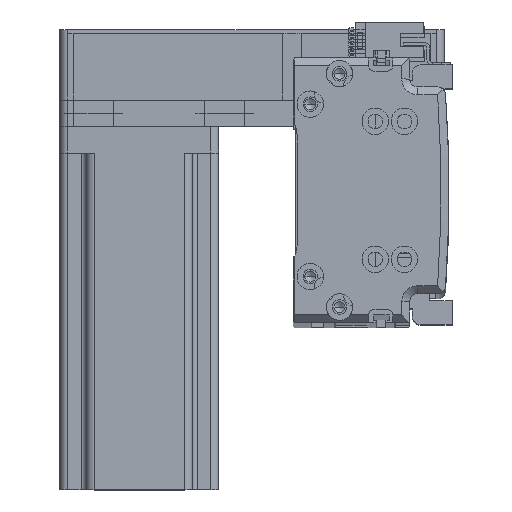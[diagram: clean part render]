
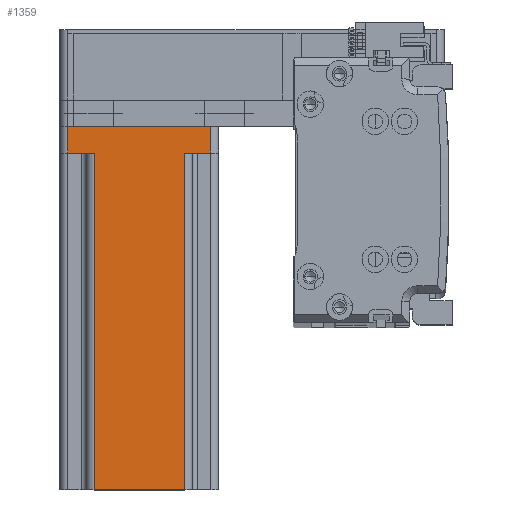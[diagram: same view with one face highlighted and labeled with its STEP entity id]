
A CAD part, top view. The second image highlights one B-rep face of the part: STEP entity #1359.
In plain terms, the highlighted planar face has unit normal (0, 0, 1) as drawn and (0, -1, 0) by its records, which use the part's own axes.
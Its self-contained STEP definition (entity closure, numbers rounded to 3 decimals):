
#155 = DIRECTION ( 'NONE',  ( -1., 0., 0. ) ) ;
#314 = DIRECTION ( 'NONE',  ( 0., 0., 1. ) ) ;
#983 = DIRECTION ( 'NONE',  ( 0., 0., -1. ) ) ;
#1106 = CARTESIAN_POINT ( 'NONE',  ( 27., -30., 0. ) ) ;
#1222 = EDGE_CURVE ( 'NONE', #5691, #38089, #54617, .T. ) ;
#1359 = ADVANCED_FACE ( 'NONE', ( #45406 ), #48182, .F. ) ;
#2135 = LINE ( 'NONE', #2583, #11985 ) ;
#2583 = CARTESIAN_POINT ( 'NONE',  ( 30., -30., 0. ) ) ;
#2760 = ORIENTED_EDGE ( 'NONE', *, *, #3086, .F. ) ;
#3086 = EDGE_CURVE ( 'NONE', #40821, #38089, #38540, .T. ) ;
#4400 = VERTEX_POINT ( 'NONE', #44124 ) ;
#4917 = EDGE_CURVE ( 'NONE', #40821, #4400, #12702, .T. ) ;
#5691 = VERTEX_POINT ( 'NONE', #43583 ) ;
#5763 = LINE ( 'NONE', #18279, #16952 ) ;
#6912 = DIRECTION ( 'NONE',  ( 1., 0., 0. ) ) ;
#9031 = CARTESIAN_POINT ( 'NONE',  ( 17., -30., 137. ) ) ;
#10103 = VECTOR ( 'NONE', #43679, 1000. ) ;
#11008 = DIRECTION ( 'NONE',  ( 1., 0., 0. ) ) ;
#11985 = VECTOR ( 'NONE', #11008, 1000. ) ;
#12702 = LINE ( 'NONE', #54312, #35199 ) ;
#15431 = VERTEX_POINT ( 'NONE', #33921 ) ;
#16841 = CARTESIAN_POINT ( 'NONE',  ( -27., -30., 10. ) ) ;
#16952 = VECTOR ( 'NONE', #43577, 1000. ) ;
#17079 = ORIENTED_EDGE ( 'NONE', *, *, #1222, .T. ) ;
#17092 = VERTEX_POINT ( 'NONE', #21574 ) ;
#17388 = LINE ( 'NONE', #38013, #28641 ) ;
#17726 = CARTESIAN_POINT ( 'NONE',  ( -17., -30., 137. ) ) ;
#18279 = CARTESIAN_POINT ( 'NONE',  ( 30., -30., 137. ) ) ;
#19640 = VECTOR ( 'NONE', #983, 1000. ) ;
#19981 = VERTEX_POINT ( 'NONE', #9031 ) ;
#20168 = ORIENTED_EDGE ( 'NONE', *, *, #4917, .T. ) ;
#21574 = CARTESIAN_POINT ( 'NONE',  ( 27., -30., 10. ) ) ;
#24354 = EDGE_CURVE ( 'NONE', #5691, #19981, #5763, .T. ) ;
#24723 = VERTEX_POINT ( 'NONE', #1106 ) ;
#24820 = DIRECTION ( 'NONE',  ( 0., 0., -1. ) ) ;
#25991 = VECTOR ( 'NONE', #6912, 1000. ) ;
#26266 = VECTOR ( 'NONE', #314, 1000. ) ;
#27335 = DIRECTION ( 'NONE',  ( 0., 1., 0. ) ) ;
#27459 = ORIENTED_EDGE ( 'NONE', *, *, #52840, .T. ) ;
#28641 = VECTOR ( 'NONE', #155, 1000. ) ;
#29248 = EDGE_CURVE ( 'NONE', #15431, #19981, #37492, .T. ) ;
#31333 = CARTESIAN_POINT ( 'NONE',  ( 27., -30., 137. ) ) ;
#32885 = EDGE_LOOP ( 'NONE', ( #41353, #17079, #2760, #20168, #44592, #35891, #27459, #40456 ) ) ;
#33921 = CARTESIAN_POINT ( 'NONE',  ( 17., -30., 10. ) ) ;
#35199 = VECTOR ( 'NONE', #24820, 1000. ) ;
#35891 = ORIENTED_EDGE ( 'NONE', *, *, #53062, .T. ) ;
#37492 = LINE ( 'NONE', #50867, #26266 ) ;
#38013 = CARTESIAN_POINT ( 'NONE',  ( 20., -30., 10. ) ) ;
#38089 = VERTEX_POINT ( 'NONE', #45320 ) ;
#38419 = EDGE_CURVE ( 'NONE', #4400, #24723, #2135, .T. ) ;
#38540 = LINE ( 'NONE', #53397, #25991 ) ;
#40456 = ORIENTED_EDGE ( 'NONE', *, *, #29248, .T. ) ;
#40821 = VERTEX_POINT ( 'NONE', #16841 ) ;
#41353 = ORIENTED_EDGE ( 'NONE', *, *, #24354, .F. ) ;
#42471 = LINE ( 'NONE', #31333, #10103 ) ;
#43577 = DIRECTION ( 'NONE',  ( 1., 0., 0. ) ) ;
#43583 = CARTESIAN_POINT ( 'NONE',  ( -17., -30., 137. ) ) ;
#43679 = DIRECTION ( 'NONE',  ( 0., 0., 1. ) ) ;
#44124 = CARTESIAN_POINT ( 'NONE',  ( -27., -30., 0. ) ) ;
#44592 = ORIENTED_EDGE ( 'NONE', *, *, #38419, .T. ) ;
#45320 = CARTESIAN_POINT ( 'NONE',  ( -17., -30., 10. ) ) ;
#45406 = FACE_OUTER_BOUND ( 'NONE', #32885, .T. ) ;
#47003 = DIRECTION ( 'NONE',  ( -1., 0., 0. ) ) ;
#47330 = AXIS2_PLACEMENT_3D ( 'NONE', #52604, #27335, #47003 ) ;
#48182 = PLANE ( 'NONE',  #47330 ) ;
#50867 = CARTESIAN_POINT ( 'NONE',  ( 17., -30., 137. ) ) ;
#52604 = CARTESIAN_POINT ( 'NONE',  ( 30., -30., 137. ) ) ;
#52840 = EDGE_CURVE ( 'NONE', #17092, #15431, #17388, .T. ) ;
#53062 = EDGE_CURVE ( 'NONE', #24723, #17092, #42471, .T. ) ;
#53397 = CARTESIAN_POINT ( 'NONE',  ( -20., -30., 10. ) ) ;
#54312 = CARTESIAN_POINT ( 'NONE',  ( -27., -30., 137. ) ) ;
#54617 = LINE ( 'NONE', #17726, #19640 ) ;
